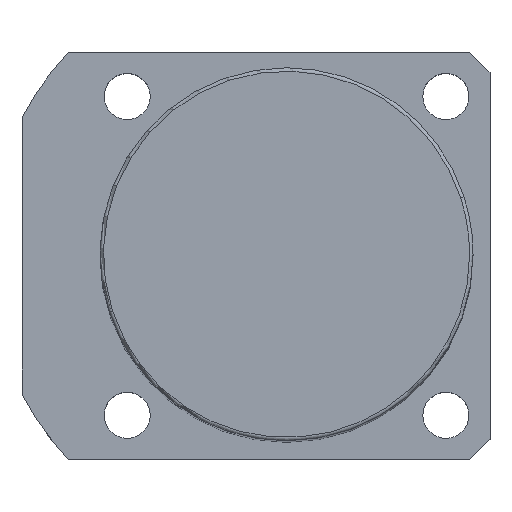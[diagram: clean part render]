
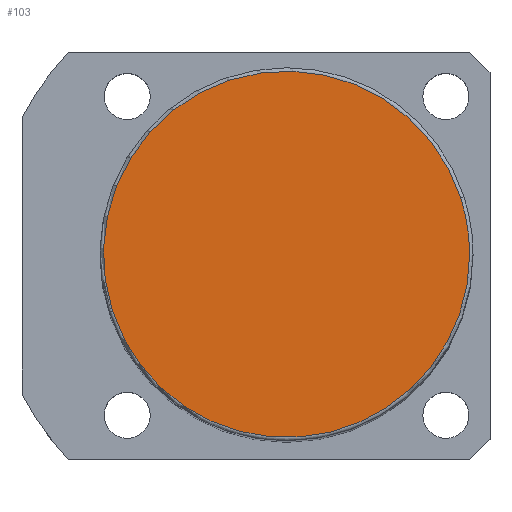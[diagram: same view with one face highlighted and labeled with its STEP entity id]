
A CAD part, top view. The second image highlights one B-rep face of the part: STEP entity #103.
In plain terms, the highlighted planar face has unit normal (0, 0, 1).
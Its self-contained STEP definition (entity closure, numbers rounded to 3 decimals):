
#16=CARTESIAN_POINT('',(-25.679,-8.343,146.0));
#17=VERTEX_POINT('',#16);
#54=CARTESIAN_POINT('',(25.679,8.343,146.0));
#55=VERTEX_POINT('',#54);
#63=CARTESIAN_POINT('',(27.0,0.0,146.0));
#64=VERTEX_POINT('',#63);
#65=CARTESIAN_POINT('',(0.0,0.0,146.0));
#66=DIRECTION('',(0.0,0.0,1.0));
#67=DIRECTION('',(1.0,0.0,0.0));
#68=AXIS2_PLACEMENT_3D('',#65,#66,#67);
#69=CIRCLE('',#68,27.0);
#70=EDGE_CURVE('no 898',#64,#55,#69,.T.);
#72=CARTESIAN_POINT('',(0.0,0.0,146.0));
#73=DIRECTION('',(0.0,0.0,1.0));
#74=DIRECTION('',(1.0,0.0,0.0));
#75=AXIS2_PLACEMENT_3D('',#72,#73,#74);
#76=CIRCLE('',#75,27.0);
#77=EDGE_CURVE('no 902',#17,#64,#76,.T.);
#87=ORIENTED_EDGE('',*,*,#70,.T.);
#88=CARTESIAN_POINT('',(0.0,0.0,146.0));
#89=DIRECTION('',(0.0,0.0,1.0));
#90=DIRECTION('',(1.0,0.0,0.0));
#91=AXIS2_PLACEMENT_3D('',#88,#89,#90);
#92=CIRCLE('',#91,27.0);
#93=EDGE_CURVE('no 911',#55,#17,#92,.T.);
#94=ORIENTED_EDGE('',*,*,#93,.T.);
#95=ORIENTED_EDGE('',*,*,#77,.T.);
#96=EDGE_LOOP('',(#87,#94,#95));
#97=FACE_OUTER_BOUND('',#96,.T.);
#98=CARTESIAN_POINT('',(0.0,0.0,146.0));
#99=DIRECTION('',(0.0,0.0,1.0));
#100=DIRECTION('',(1.0,0.0,0.0));
#101=AXIS2_PLACEMENT_3D('',#98,#99,#100);
#102=PLANE('',#101);
#103=ADVANCED_FACE('no 904',(#97),#102,.T.);
